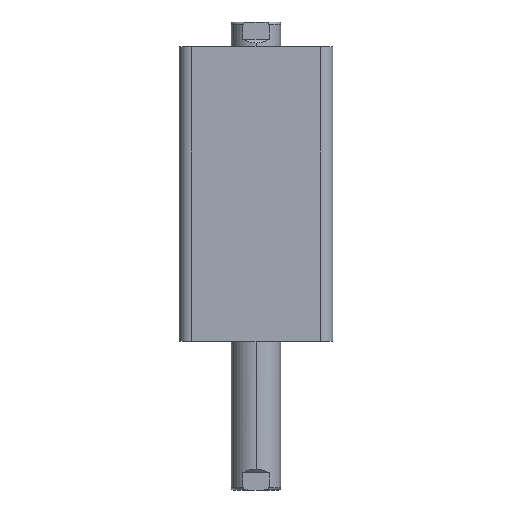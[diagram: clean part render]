
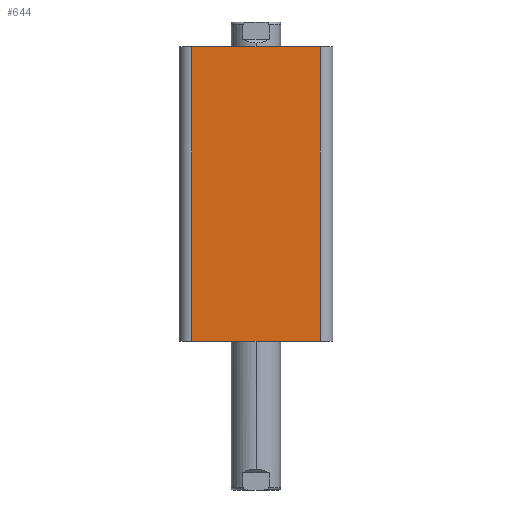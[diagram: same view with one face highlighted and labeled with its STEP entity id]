
A CAD part, left-side view. The second image highlights one B-rep face of the part: STEP entity #644.
In plain terms, the highlighted planar face has unit normal (-1, 0, 0).
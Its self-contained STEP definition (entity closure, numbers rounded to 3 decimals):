
#112 = AXIS2_PLACEMENT_3D ( 'NONE', #2842, #2852, #2853 ) ;
#644 = ADVANCED_FACE ( 'NONE', ( #1853 ), #2850, .F. ) ;
#966 = CARTESIAN_POINT ( 'NONE',  ( -31., -26., 119. ) ) ;
#977 = CARTESIAN_POINT ( 'NONE',  ( -31., 31., 0. ) ) ;
#978 = DIRECTION ( 'NONE',  ( 0., -1., 0. ) ) ;
#979 = DIRECTION ( 'NONE',  ( 0., 0., 1. ) ) ;
#980 = CARTESIAN_POINT ( 'NONE',  ( -31., 31., 119. ) ) ;
#981 = DIRECTION ( 'NONE',  ( 0., -1., 0. ) ) ;
#982 = CARTESIAN_POINT ( 'NONE',  ( -31., 26., 119. ) ) ;
#983 = DIRECTION ( 'NONE',  ( 0., 0., -1. ) ) ;
#1324 = EDGE_LOOP ( 'NONE', ( #2307, #2308, #2309, #2310 ) ) ;
#1625 = LINE ( 'NONE', #966, #1634 ) ;
#1629 = LINE ( 'NONE', #977, #1632 ) ;
#1632 = VECTOR ( 'NONE', #978, 1000. ) ;
#1633 = LINE ( 'NONE', #980, #1636 ) ;
#1634 = VECTOR ( 'NONE', #979, 1000. ) ;
#1635 = LINE ( 'NONE', #982, #1638 ) ;
#1636 = VECTOR ( 'NONE', #981, 1000. ) ;
#1638 = VECTOR ( 'NONE', #983, 1000. ) ;
#1729 = VERTEX_POINT ( 'NONE', #2506 ) ;
#1730 = VERTEX_POINT ( 'NONE', #2507 ) ;
#1736 = VERTEX_POINT ( 'NONE', #2513 ) ;
#1738 = VERTEX_POINT ( 'NONE', #2515 ) ;
#1853 = FACE_OUTER_BOUND ( 'NONE', #1324, .T. ) ;
#2307 = ORIENTED_EDGE ( 'NONE', *, *, #3203, .T. ) ;
#2308 = ORIENTED_EDGE ( 'NONE', *, *, #3204, .T. ) ;
#2309 = ORIENTED_EDGE ( 'NONE', *, *, #3205, .F. ) ;
#2310 = ORIENTED_EDGE ( 'NONE', *, *, #3206, .T. ) ;
#2506 = CARTESIAN_POINT ( 'NONE',  ( -31., -26., 119. ) ) ;
#2507 = CARTESIAN_POINT ( 'NONE',  ( -31., 26., 119. ) ) ;
#2513 = CARTESIAN_POINT ( 'NONE',  ( -31., -26., 0. ) ) ;
#2515 = CARTESIAN_POINT ( 'NONE',  ( -31., 26., 0. ) ) ;
#2842 = CARTESIAN_POINT ( 'NONE',  ( -31., 31., 119. ) ) ;
#2850 = PLANE ( 'NONE',  #112 ) ;
#2852 = DIRECTION ( 'NONE',  ( 1., 0., 0. ) ) ;
#2853 = DIRECTION ( 'NONE',  ( 0., 1., 0. ) ) ;
#3203 = EDGE_CURVE ( 'NONE', #1738, #1736, #1629, .T. ) ;
#3204 = EDGE_CURVE ( 'NONE', #1736, #1729, #1625, .T. ) ;
#3205 = EDGE_CURVE ( 'NONE', #1730, #1729, #1633, .T. ) ;
#3206 = EDGE_CURVE ( 'NONE', #1730, #1738, #1635, .T. ) ;
